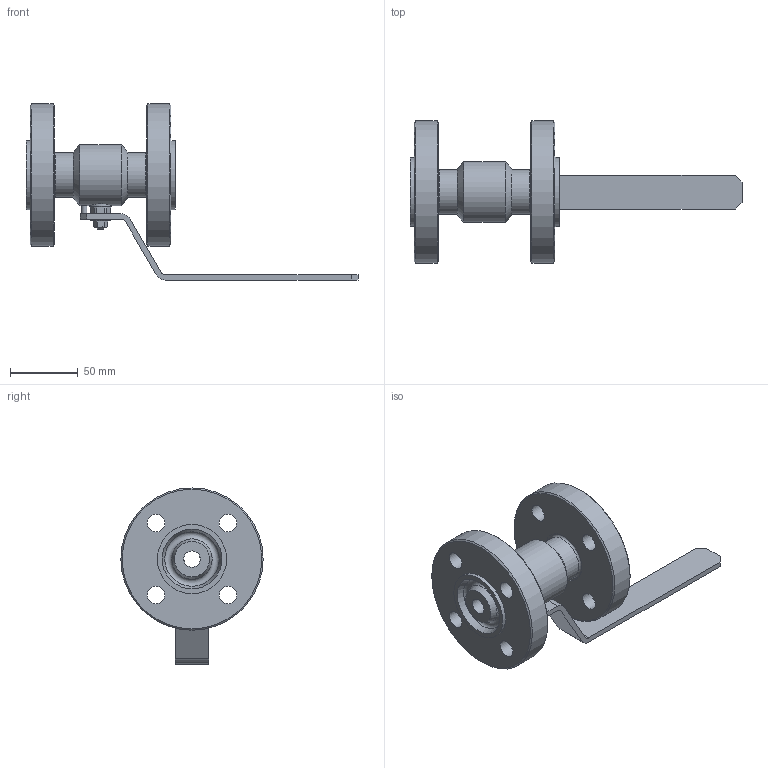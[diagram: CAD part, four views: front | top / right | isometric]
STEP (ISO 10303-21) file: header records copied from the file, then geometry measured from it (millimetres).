
FILE_DESCRIPTION(('STEP AP203'), '1');
FILE_NAME('ZARD 015.080.27.P.stp', '2013-12-05T09:02:06', ('1'), ('1'), 'ASCON STEP Converter 1.3', 'Kompas 3D', '');
FILE_SCHEMA(('CONFIG_CONTROL_DESIGN','SUPPORT_RESOURCE_SCHEMA'));
Length unit declared in the file: millimetre
Products named in the file (1): 62
Bounding box: 245 x 105 x 130 mm (x, y, z)
Volume: 383877.2 mm3; surface area: 80315.4 mm2
Topology: 1 solids, 3 shells, 167 faces, 384 edges, 236 vertices
Faces by surface type: plane 88, cylinder 44, cone 30, torus 4, bspline 1
Full cylindrical faces by diameter (mm): 4 x2, 6 x2, 8.673 x1, 9 x1, 10 x1, 10.1 x1, 12 x2, 13 x8, 14.2 x1, 15.8 x1, 16 x3, 25.4 x1, 33 x2, 45 x1, 51 x2, 105 x2
Entity records: 5848 total; most frequent: CARTESIAN_POINT 1854, DIRECTION 855, ORIENTED_EDGE 766, EDGE_CURVE 383, AXIS2_PLACEMENT_3D 330, VERTEX_POINT 236, EDGE_LOOP 211, LINE 195
